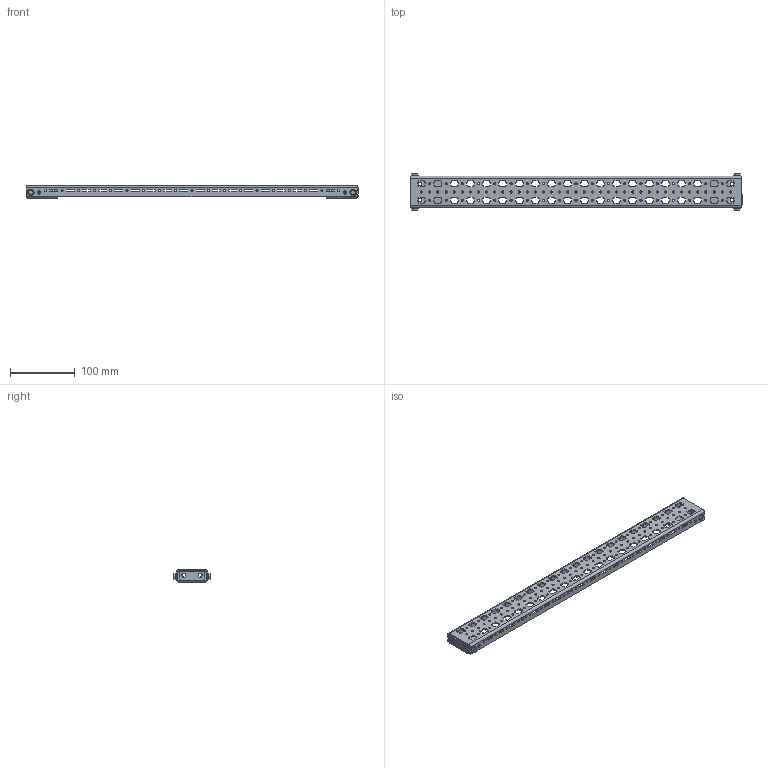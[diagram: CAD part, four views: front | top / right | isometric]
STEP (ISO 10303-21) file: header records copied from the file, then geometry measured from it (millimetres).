
FILE_DESCRIPTION (( 'STEP AP203' ), '1' );
FILE_NAME ('MRD 60.06 L Ðåéêà ìîíòàæíàÿ (äåðæàòåëè ñäâèíóòû).STEP', '2025-05-15T12:13:45', ( '' ), ( '' ), 'SwSTEP 2.0', 'SolidWorks 2019', '' );
FILE_SCHEMA (( 'CONFIG_CONTROL_DESIGN' ));
Length unit declared in the file: millimetre
Products named in the file (4): MRD X.06.001 L Ðåéêà ìîíòàæíàÿ_MRD 60.06.001 L; MRD X.06.002 L Êðîíøòåéí ðåéêè; 妈眚 襦祛磬疱玎栝_4,8x11; MRD 60.06 L Ðåéêà ìîíòàæíàÿ (äåðæàòåëè ñäâèíóòû)
Assembly tree (7 placements, depth 2):
  MRD 60.06 L Ðåéêà ìîíòàæíàÿ (äåðæàòåëè ñäâèíóòû)
    MRD X.06.001 L Ðåéêà ìîíòàæíàÿ_MRD 60.06.001 L
    MRD X.06.002 L Êðîíøòåéí ðåéêè  x2
    妈眚 襦祛磬疱玎栝_4,8x11  x4
Bounding box: 511 x 58 x 19.5 mm (x, y, z)
Volume: 80770.9 mm3; surface area: 93275.5 mm2
Topology: 7 solids, 7 shells, 1812 faces, 5310 edges, 3512 vertices
Faces by surface type: cylinder 1014, plane 754, bspline 24, cone 20
Entity records: 57582 total; most frequent: CARTESIAN_POINT 10826, DIRECTION 9897, ORIENTED_EDGE 9680, EDGE_CURVE 4840, AXIS2_PLACEMENT_3D 3478, VERTEX_POINT 3213, VECTOR 2941, LINE 2941
